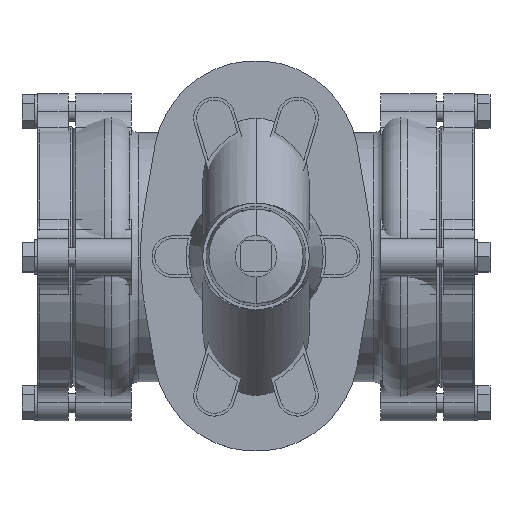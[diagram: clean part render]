
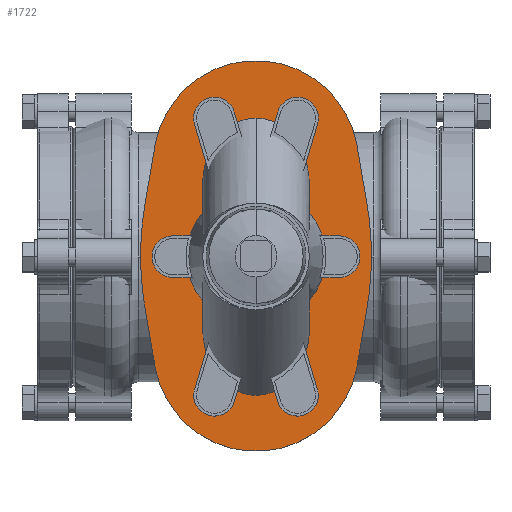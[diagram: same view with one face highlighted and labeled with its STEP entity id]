
A CAD part, top view. The second image highlights one B-rep face of the part: STEP entity #1722.
In plain terms, the highlighted planar face has unit normal (0, 0, 1).
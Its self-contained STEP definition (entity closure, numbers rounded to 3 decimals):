
#1722=ADVANCED_FACE('',(#3709),#3710,.T.);
#3709=FACE_OUTER_BOUND('',#6611,.T.);
#3710=PLANE('',#6612);
#6611=EDGE_LOOP('',(#9140,#9141,#9142,#9143,#9144,#9145,#9146,#9147,#9148,#9149,#9150));
#6612=AXIS2_PLACEMENT_3D('',#9151,#9152,#9153);
#9140=ORIENTED_EDGE('',*,*,#15504,.T.);
#9141=ORIENTED_EDGE('',*,*,#15505,.T.);
#9142=ORIENTED_EDGE('',*,*,#15506,.T.);
#9143=ORIENTED_EDGE('',*,*,#15507,.T.);
#9144=ORIENTED_EDGE('',*,*,#15508,.T.);
#9145=ORIENTED_EDGE('',*,*,#15509,.T.);
#9146=ORIENTED_EDGE('',*,*,#15510,.T.);
#9147=ORIENTED_EDGE('',*,*,#15511,.T.);
#9148=ORIENTED_EDGE('',*,*,#15512,.T.);
#9149=ORIENTED_EDGE('',*,*,#15513,.T.);
#9150=ORIENTED_EDGE('',*,*,#15514,.T.);
#9151=CARTESIAN_POINT('',(47.484,0.505,224.0));
#9152=DIRECTION('',(0.0,0.0,1.0));
#9153=DIRECTION('',(1.0,0.0,0.0));
#15504=EDGE_CURVE('',#18086,#18087,#18088,.T.);
#15505=EDGE_CURVE('',#18087,#18089,#18090,.T.);
#15506=EDGE_CURVE('',#18089,#18091,#18092,.T.);
#15507=EDGE_CURVE('',#18091,#18093,#18094,.T.);
#15508=EDGE_CURVE('',#18093,#18095,#18096,.T.);
#15509=EDGE_CURVE('',#18095,#18097,#18098,.T.);
#15510=EDGE_CURVE('',#18097,#18099,#18100,.T.);
#15511=EDGE_CURVE('',#18099,#18101,#18102,.T.);
#15512=EDGE_CURVE('',#18101,#18103,#18104,.T.);
#15513=EDGE_CURVE('',#18103,#18105,#18106,.T.);
#15514=EDGE_CURVE('',#18105,#18086,#18107,.T.);
#18086=VERTEX_POINT('',#21734);
#18087=VERTEX_POINT('',#21735);
#18088=LINE('',#21736,#21737);
#18089=VERTEX_POINT('',#21738);
#18090=CIRCLE('',#21739,224.047);
#18091=VERTEX_POINT('',#21740);
#18092=CIRCLE('',#21741,224.047);
#18093=VERTEX_POINT('',#21742);
#18094=LINE('',#21743,#21744);
#18095=VERTEX_POINT('',#21745);
#18096=CIRCLE('',#21746,74.);
#18097=VERTEX_POINT('',#21747);
#18098=LINE('',#21748,#21749);
#18099=VERTEX_POINT('',#21750);
#18100=CIRCLE('',#21751,222.828);
#18101=VERTEX_POINT('',#21752);
#18102=CIRCLE('',#21753,222.828);
#18103=VERTEX_POINT('',#21754);
#18104=CIRCLE('',#21755,222.828);
#18105=VERTEX_POINT('',#21756);
#18106=LINE('',#21757,#21758);
#18107=CIRCLE('',#21759,74.);
#21734=CARTESIAN_POINT('',(120.444,-78.845,224.0));
#21735=CARTESIAN_POINT('',(127.554,-37.205,224.0));
#21736=CARTESIAN_POINT('',(120.444,-78.845,224.0));
#21737=VECTOR('',#26320,1.0);
#21738=CARTESIAN_POINT('',(130.751,0.505,224.0));
#21739=AXIS2_PLACEMENT_3D('',#26321,#26322,#26323);
#21740=CARTESIAN_POINT('',(127.554,38.214,224.0));
#21741=AXIS2_PLACEMENT_3D('',#26324,#26325,#26326);
#21742=CARTESIAN_POINT('',(120.444,79.855,224.0));
#21743=CARTESIAN_POINT('',(127.554,38.214,224.0));
#21744=VECTOR('',#26327,1.0);
#21745=CARTESIAN_POINT('',(-25.444,79.855,224.0));
#21746=AXIS2_PLACEMENT_3D('',#26328,#26329,#26330);
#21747=CARTESIAN_POINT('',(-32.556,38.206,224.0));
#21748=CARTESIAN_POINT('',(-25.444,79.855,224.0));
#21749=VECTOR('',#26331,1.0);
#21750=CARTESIAN_POINT('',(-35.735,0.701,224.0));
#21751=AXIS2_PLACEMENT_3D('',#26332,#26333,#26334);
#21752=CARTESIAN_POINT('',(-35.732,-0.394,224.0));
#21753=AXIS2_PLACEMENT_3D('',#26335,#26336,#26337);
#21754=CARTESIAN_POINT('',(-32.554,-37.205,224.0));
#21755=AXIS2_PLACEMENT_3D('',#26338,#26339,#26340);
#21756=CARTESIAN_POINT('',(-25.444,-78.845,224.0));
#21757=CARTESIAN_POINT('',(-32.554,-37.205,224.0));
#21758=VECTOR('',#26341,1.0);
#21759=AXIS2_PLACEMENT_3D('',#26342,#26343,#26344);
#26320=DIRECTION('',(0.168,0.986,0.0));
#26321=CARTESIAN_POINT('',(-93.296,0.505,224.0));
#26322=DIRECTION('',(0.0,0.0,1.0));
#26323=DIRECTION('',(1.0,0.0,0.0));
#26324=CARTESIAN_POINT('',(-93.296,0.505,224.0));
#26325=DIRECTION('',(0.0,0.0,1.0));
#26326=DIRECTION('',(1.0,0.0,0.0));
#26327=DIRECTION('',(-0.168,0.986,0.0));
#26328=CARTESIAN_POINT('',(47.5,67.4,224.0));
#26329=DIRECTION('',(0.0,0.0,1.0));
#26330=DIRECTION('',(1.0,0.0,0.0));
#26331=DIRECTION('',(-0.168,-0.986,0.0));
#26332=CARTESIAN_POINT('',(187.093,0.701,224.0));
#26333=DIRECTION('',(0.0,0.0,1.0));
#26334=DIRECTION('',(1.0,0.0,0.0));
#26335=CARTESIAN_POINT('',(187.093,0.701,224.0));
#26336=DIRECTION('',(0.0,0.0,1.0));
#26337=DIRECTION('',(1.0,0.0,0.0));
#26338=CARTESIAN_POINT('',(187.095,0.299,224.0));
#26339=DIRECTION('',(0.0,0.0,1.0));
#26340=DIRECTION('',(1.0,0.0,0.0));
#26341=DIRECTION('',(0.168,-0.986,0.0));
#26342=CARTESIAN_POINT('',(47.5,-66.39,224.0));
#26343=DIRECTION('',(0.0,0.0,1.0));
#26344=DIRECTION('',(1.0,0.0,0.0));
